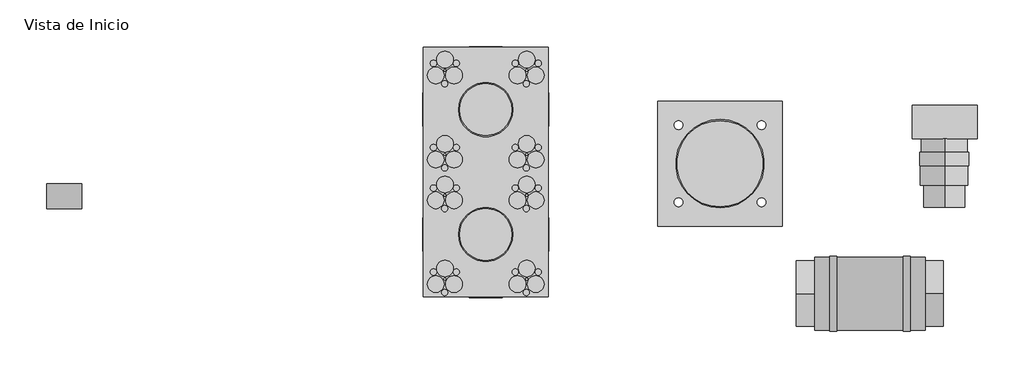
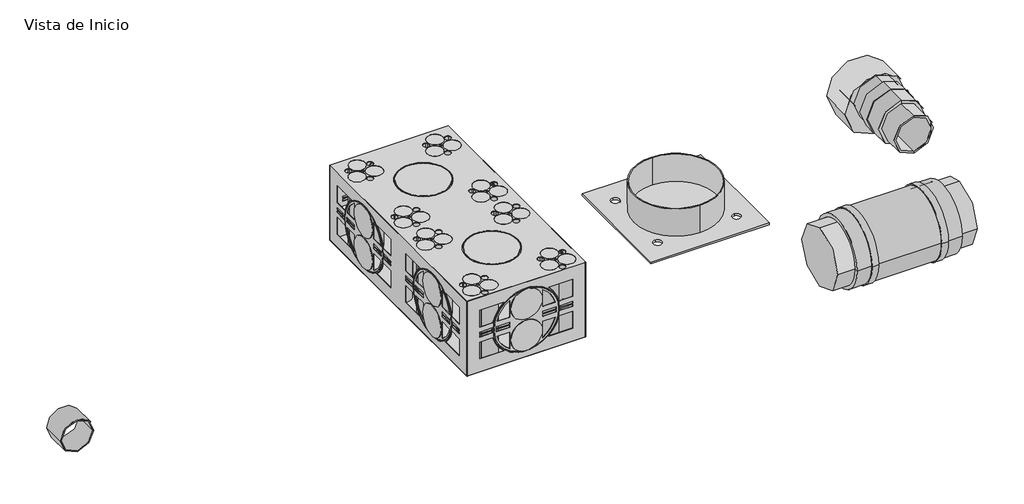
# One storey, incomplete: 5 pipe fittings, 2 pipe segments, 1 proxy.
"""IFC4 building model written with IfcOpenShell, lengths in millimetres."""

from ifc_helpers import new_model, si_unit, point, frame, frame_2d, origin, place, context, project, spatial, circle_curve, trimmed, segment, composite_curve, outline, extrude, transform, mapped, element, save
from components import var_ef881a78, var_9defbf0c, pipe_fitting_89f5fbe8, var_8d4eb38c, var_8eb57f07, var_a671f5a2, var_639a9b50

model = new_model("IFC4")

# Units and contexts
model_context = context("Model", 3, world=origin())
ifc_project = project(units=[si_unit("LENGTHUNIT", "METRE", prefix="MILLI")], contexts=[model_context])

# Site, building, storey
site = spatial("IfcSite", under=ifc_project)
building = spatial("IfcBuilding", under=site)
storey = spatial("IfcBuildingStorey", under=building, Name="Vista de Inicio", Elevation=0.0)

# Proxy
placement = place(None, origin())
var_shape = var_ef881a78(model_context)
var_2_shape = var_9defbf0c(model_context)
element("IfcBuildingElementProxy", 1, Name="Plastigama Wavin_AquaCell 400 : Var.", ObjectType="Plastigama Wavin_AquaCell 400 : Var.", at=placement, inside=storey, context=model_context, shape_type="MappedRepresentation", body=[
    mapped(var_shape, transform((5376.586619, 995.9663875, 0.0), x_axis=(1.0, 0.0, 0.0), y_axis=(0.0, 1.0, 0.0), z_axis=(0.0, 0.0, 1.0))),
    mapped(var_2_shape, transform((5376.586619, 995.9663875, 0.0), x_axis=(1.0, 0.0, 0.0), y_axis=(0.0, 1.0, 0.0), z_axis=(0.0, 0.0, 1.0))),
])

# Pipe fittings
pipe_fitting_shape = pipe_fitting_89f5fbe8(model_context)
element("IfcPipeFitting", 2, ObjectType="PlastigamaWavin_Unionesdetubería_Presión UZ_UnióndeReparación : Unión Reparación Larga U/Z", at=placement, inside=storey, context=model_context, shape_type="MappedRepresentation", body=[
    mapped(pipe_fitting_shape, transform((7222.6973364, 411.736271, 0.0), x_axis=(1.0, 0.0, 0.0), y_axis=(0.0, 1.0, 0.0), z_axis=(0.0, 0.0, 1.0))),
])
var_3_shape = var_8d4eb38c(model_context)
element("IfcPipeFitting", 3, ObjectType="PlastigamaWavin_Unionesdetubería_Aquacell400_AdaptadorDN160-200-315 : Var", at=placement, inside=storey, context=model_context, shape_type="MappedRepresentation", body=[
    mapped(var_3_shape, transform((7582.6973364, 1315.9663875, 114.8276042), x_axis=(-1.0, 0.0, 0.0), y_axis=(0.0, 0.0, -1.0), z_axis=(0.0, -1.0, 0.0))),
])
var_4_shape = var_8eb57f07(model_context)
element("IfcPipeFitting", 4, ObjectType="PlastigamaWavin_Unionesdetubería_Aquacell400_AdaptadorDN425 : Var", at=placement, inside=storey, context=model_context, shape_type="MappedRepresentation", body=[
    mapped(var_4_shape, transform((6502.5640055, 1035.9663875, 0.0), x_axis=(0.0, 1.0, 0.0), y_axis=(-1.0, 0.0, 0.0), z_axis=(0.0, 0.0, 1.0))),
])
var_5_shape = var_a671f5a2(model_context)
element("IfcPipeFitting", 5, ObjectType="PlastigamaWavin_Unionesdetubería_AquacellCore_ConexiónDN160 : Var.", at=placement, inside=storey, context=model_context, shape_type="MappedRepresentation", body=[
    mapped(var_5_shape, transform((3351.3248262, 819.9426085, 30.0), x_axis=(1.0, 0.0, 0.0), y_axis=(0.0, 0.0, 1.0), z_axis=(0.0, -1.0, 0.0))),
])
var_6_shape = var_639a9b50(model_context)
element("IfcPipeFitting", 6, ObjectType="PlastigamaWavin_Unionesdetubería_Presión UZ_AdaptadorECorto : Var.", at=placement, inside=storey, context=model_context, shape_type="MappedRepresentation", body=[
    mapped(var_6_shape, transform((7582.6973364, 931.9663875, 154.8276042), x_axis=(0.0, -1.0, 0.0), y_axis=(0.0, 0.0, -1.0), z_axis=(1.0, 0.0, 0.0))),
])

# Pipe segments
element("IfcPipeSegment", 7, ObjectType="PLASTIGAMA PVC Unión Z", at=placement, inside=storey, context=model_context, shape_type="SweptSolid", body=[
    extrude(outline(composite_curve([segment(trimmed(circle_curve(frame_2d((411.736271, 0.0)), 157.5), [point((254.236271, 0.0))], [point((411.736271, 157.5))], False, "CARTESIAN"), True, "CONTINUOUS"), segment(trimmed(circle_curve(frame_2d((411.736271, 0.0)), 157.5), [point((411.736271, 157.5))], [point((569.236271, 0.0))], False, "CARTESIAN"), True, "CONTINUOUS"), segment(trimmed(circle_curve(frame_2d((411.736271, 0.0)), 157.5), [point((569.236271, 0.0))], [point((411.736271, -157.5))], False, "CARTESIAN"), True, "CONTINUOUS"), segment(trimmed(circle_curve(frame_2d((411.736271, 0.0)), 157.5), [point((411.736271, -157.5))], [point((254.236271, 0.0))], False, "CARTESIAN"), True, "CONTINUOUS")], self_intersect=False)), frame((7415.6973364, 0.0, 0.0), z_axis=(1.0, 0.0, 0.0), x_axis=(0.0, 1.0, 0.0)), (0.0, 0.0, 1.0), 160.0),
])
element("IfcPipeSegment", 8, ObjectType="PLASTIGAMA PVC Unión Z", at=placement, inside=storey, context=model_context, shape_type="SweptSolid", body=[
    extrude(outline(composite_curve([segment(trimmed(circle_curve(frame_2d((411.736271, 0.0)), 157.5), [point((569.236271, 0.0))], [point((411.736271, -157.5))], False, "CARTESIAN"), True, "CONTINUOUS"), segment(trimmed(circle_curve(frame_2d((411.736271, 0.0)), 157.5), [point((411.736271, -157.5))], [point((254.236271, 0.0))], False, "CARTESIAN"), True, "CONTINUOUS"), segment(trimmed(circle_curve(frame_2d((411.736271, 0.0)), 157.5), [point((254.236271, 0.0))], [point((411.736271, 157.5))], False, "CARTESIAN"), True, "CONTINUOUS"), segment(trimmed(circle_curve(frame_2d((411.736271, 0.0)), 157.5), [point((411.736271, 157.5))], [point((569.236271, 0.0))], False, "CARTESIAN"), True, "CONTINUOUS")], self_intersect=False)), frame((6869.6973364, 0.0, 0.0), z_axis=(1.0, 0.0, 0.0), x_axis=(0.0, 1.0, 0.0)), (0.0, 0.0, 1.0), 160.0),
])

save(model, "model.ifc")
